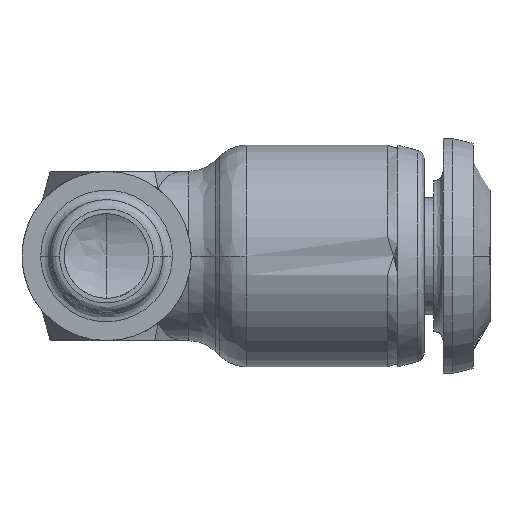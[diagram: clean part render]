
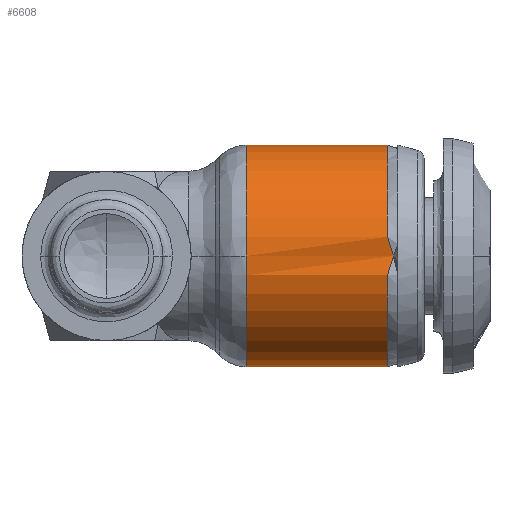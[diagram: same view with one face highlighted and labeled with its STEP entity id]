
A CAD part, front view. The second image highlights one B-rep face of the part: STEP entity #6608.
In plain terms, the highlighted cylindrical face has radius 5.9 mm (diameter 11.8 mm), a partial arc.
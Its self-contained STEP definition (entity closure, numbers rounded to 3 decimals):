
#949 = VERTEX_POINT ( 'NONE', #6709 ) ;
#1070 = VERTEX_POINT ( 'NONE', #2602 ) ;
#1278 = EDGE_CURVE ( 'NONE', #949, #5558, #7246, .T. ) ;
#1282 = CARTESIAN_POINT ( 'NONE',  ( 15.258, -5.584, 0. ) ) ;
#1408 = CARTESIAN_POINT ( 'NONE',  ( 14.94, 0., 5.9 ) ) ;
#1435 = EDGE_CURVE ( 'NONE', #2212, #1070, #7283, .T. ) ;
#1471 = EDGE_CURVE ( 'NONE', #6911, #2212, #7112, .T. ) ;
#2107 = EDGE_CURVE ( 'NONE', #5558, #6911, #6498, .T. ) ;
#2212 = VERTEX_POINT ( 'NONE', #1282 ) ;
#2268 = CARTESIAN_POINT ( 'NONE',  ( 7.428, 0., 0. ) ) ;
#2334 = DIRECTION ( 'NONE',  ( 1., 0., 0. ) ) ;
#2593 = DIRECTION ( 'NONE',  ( 0., 0., -1. ) ) ;
#2597 = AXIS2_PLACEMENT_3D ( 'NONE', #2268, #6873, #7378 ) ;
#2600 = CARTESIAN_POINT ( 'NONE',  ( 7.428, 0., 5.9 ) ) ;
#2602 = CARTESIAN_POINT ( 'NONE',  ( 14.94, 0., -5.9 ) ) ;
#2617 = DIRECTION ( 'NONE',  ( 1., 0., 0. ) ) ;
#2649 = EDGE_CURVE ( 'NONE', #4604, #949, #6262, .T. ) ;
#2651 = ORIENTED_EDGE ( 'NONE', *, *, #1278, .F. ) ;
#2691 = CARTESIAN_POINT ( 'NONE',  ( 7.428, 0., 0. ) ) ;
#2707 = DIRECTION ( 'NONE',  ( 0., 0., 1. ) ) ;
#2721 = DIRECTION ( 'NONE',  ( -1., 0., 0. ) ) ;
#2731 = CARTESIAN_POINT ( 'NONE',  ( 7.428, 0., 0. ) ) ;
#3015 = ORIENTED_EDGE ( 'NONE', *, *, #3155, .T. ) ;
#3155 = EDGE_CURVE ( 'NONE', #4604, #1070, #5986, .T. ) ;
#4073 = CARTESIAN_POINT ( 'NONE',  ( 7.428, 0., 5.9 ) ) ;
#4228 = CYLINDRICAL_SURFACE ( 'NONE', #7290, 5.9 ) ;
#4302 = FACE_OUTER_BOUND ( 'NONE', #6877, .T. ) ;
#4319 = CARTESIAN_POINT ( 'NONE',  ( 7.428, 0., -5.9 ) ) ;
#4587 = ORIENTED_EDGE ( 'NONE', *, *, #1435, .F. ) ;
#4604 = VERTEX_POINT ( 'NONE', #6816 ) ;
#5558 = VERTEX_POINT ( 'NONE', #4073 ) ;
#5818 = ORIENTED_EDGE ( 'NONE', *, *, #2649, .F. ) ;
#5904 = VECTOR ( 'NONE', #6602, 1000. ) ;
#5986 = LINE ( 'NONE', #4319, #5904 ) ;
#6172 = AXIS2_PLACEMENT_3D ( 'NONE', #6507, #6500, #6450 ) ;
#6179 = ORIENTED_EDGE ( 'NONE', *, *, #1471, .F. ) ;
#6262 = CIRCLE ( 'NONE', #2597, 5.9 ) ;
#6450 = DIRECTION ( 'NONE',  ( 0., 1., 0. ) ) ;
#6485 = VECTOR ( 'NONE', #2334, 1000. ) ;
#6498 = LINE ( 'NONE', #2600, #6485 ) ;
#6500 = DIRECTION ( 'NONE',  ( 1., 0., 0. ) ) ;
#6507 = CARTESIAN_POINT ( 'NONE',  ( 14.94, 0., 0. ) ) ;
#6581 = DIRECTION ( 'NONE',  ( 0., 1., 0. ) ) ;
#6582 = AXIS2_PLACEMENT_3D ( 'NONE', #6613, #6607, #6581 ) ;
#6602 = DIRECTION ( 'NONE',  ( 1., 0., 0. ) ) ;
#6607 = DIRECTION ( 'NONE',  ( 1., 0., 0. ) ) ;
#6608 = ADVANCED_FACE ( 'NONE', ( #4302 ), #4228, .T. ) ;
#6613 = CARTESIAN_POINT ( 'NONE',  ( 14.94, 0., 0. ) ) ;
#6709 = CARTESIAN_POINT ( 'NONE',  ( 7.428, -5.9, 0. ) ) ;
#6749 = AXIS2_PLACEMENT_3D ( 'NONE', #2731, #2721, #2707 ) ;
#6816 = CARTESIAN_POINT ( 'NONE',  ( 7.428, 0., -5.9 ) ) ;
#6873 = DIRECTION ( 'NONE',  ( -1., 0., 0. ) ) ;
#6877 = EDGE_LOOP ( 'NONE', ( #7078, #2651, #5818, #3015, #4587, #6179 ) ) ;
#6911 = VERTEX_POINT ( 'NONE', #1408 ) ;
#7078 = ORIENTED_EDGE ( 'NONE', *, *, #2107, .F. ) ;
#7112 = CIRCLE ( 'NONE', #6172, 5.9 ) ;
#7246 = CIRCLE ( 'NONE', #6749, 5.9 ) ;
#7283 = CIRCLE ( 'NONE', #6582, 5.9 ) ;
#7290 = AXIS2_PLACEMENT_3D ( 'NONE', #2691, #2617, #2593 ) ;
#7378 = DIRECTION ( 'NONE',  ( 0., 0., 1. ) ) ;
